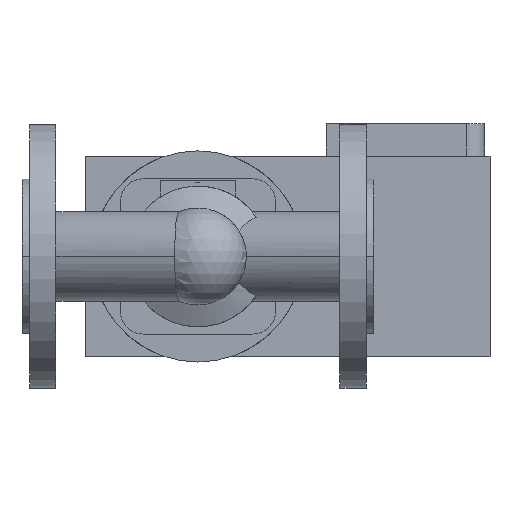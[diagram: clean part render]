
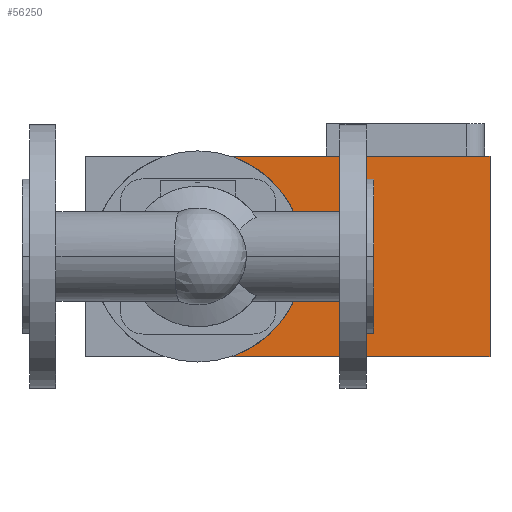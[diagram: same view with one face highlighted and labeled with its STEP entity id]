
A CAD part, front view. The second image highlights one B-rep face of the part: STEP entity #56250.
In plain terms, the highlighted planar face has unit normal (0, -1, 0).
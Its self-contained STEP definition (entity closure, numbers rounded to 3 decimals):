
#52720=CARTESIAN_POINT('',(71.5,378.,0.));
#52730=DIRECTION('',(0.,1.,-0.));
#52740=DIRECTION('',(-1.,0.,0.));
#52750=AXIS2_PLACEMENT_3D('',#52720,#52730,#52740);
#52760=PLANE('',#52750);
#52770=CARTESIAN_POINT('',(36.,378.,-57.));
#52780=DIRECTION('',(1.,0.,0.));
#52790=VECTOR('',#52780,1.);
#52800=LINE('',#52770,#52790);
#52950=CARTESIAN_POINT('',(36.,378.,57.));
#52960=DIRECTION('',(1.,0.,0.));
#52970=VECTOR('',#52960,1.);
#52980=LINE('',#52950,#52970);
#53030=CARTESIAN_POINT('',(100.,378.,0.));
#53040=DIRECTION('',(0.,-1.,0.));
#53050=DIRECTION('',(-1.,0.,0.));
#53060=AXIS2_PLACEMENT_3D('',#53030,#53040,#53050);
#53070=CIRCLE('',#53060,60.);
#53260=CARTESIAN_POINT('',(118.735,378.,-57.));
#53270=VERTEX_POINT('',#53260);
#53320=CARTESIAN_POINT('',(266.,378.,-57.));
#53330=VERTEX_POINT('',#53320);
#53340=EDGE_CURVE('',#53270,#53330,#52800,.T.);
#54640=CARTESIAN_POINT('',(266.,378.,57.));
#54650=VERTEX_POINT('',#54640);
#54680=CARTESIAN_POINT('',(118.735,378.,57.));
#54690=VERTEX_POINT('',#54680);
#54700=EDGE_CURVE('',#54690,#54650,#52980,.T.);
#55980=CARTESIAN_POINT('',(160.,378.,0.));
#55990=VERTEX_POINT('',#55980);
#56020=EDGE_CURVE('',#53270,#55990,#53070,.T.);
#56120=ORIENTED_EDGE('',*,*,#54700,.F.);
#56130=CARTESIAN_POINT('',(266.,378.,0.));
#56140=DIRECTION('',(0.,0.,-1.));
#56150=VECTOR('',#56140,1.);
#56160=LINE('',#56130,#56150);
#56170=EDGE_CURVE('',#54650,#53330,#56160,.T.);
#56180=ORIENTED_EDGE('',*,*,#56170,.F.);
#56190=ORIENTED_EDGE('',*,*,#53340,.T.);
#56200=ORIENTED_EDGE('',*,*,#56020,.F.);
#56210=EDGE_CURVE('',#55990,#54690,#53070,.T.);
#56220=ORIENTED_EDGE('',*,*,#56210,.F.);
#56230=EDGE_LOOP('',(#56220,#56200,#56190,#56180,#56120));
#56240=FACE_OUTER_BOUND('',#56230,.T.);
#56250=ADVANCED_FACE('',(#56240),#52760,.F.);
